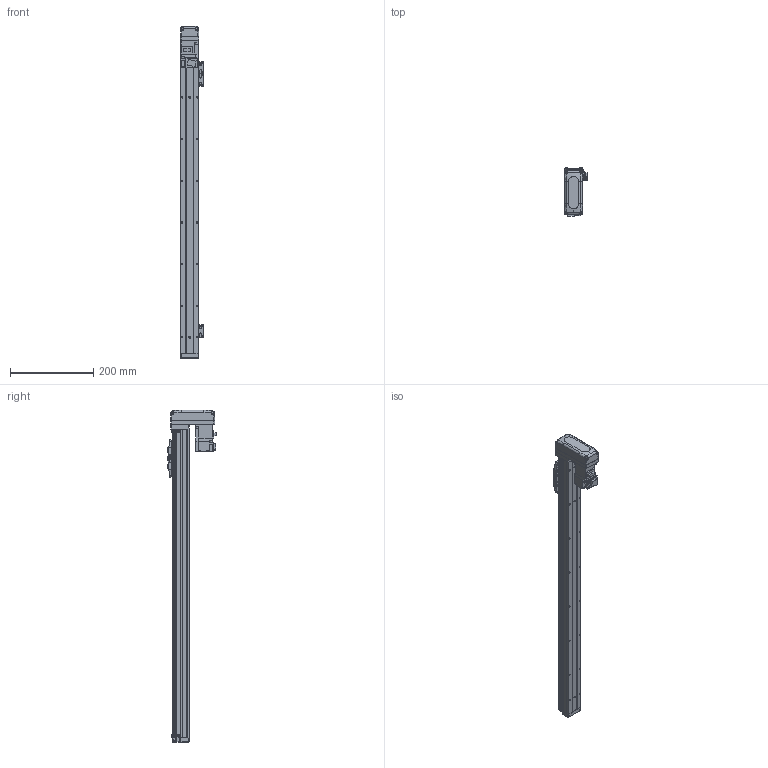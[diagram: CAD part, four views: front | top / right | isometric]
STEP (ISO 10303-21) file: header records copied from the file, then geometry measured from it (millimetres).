
FILE_DESCRIPTION (( 'STEP AP203' ), '1' );
FILE_NAME ('GTH4-600-BM-M05-C4.step', '2023-08-28T00:43:08', ( '微软用户' ), ( '微软中国' ), 'SwSTEP 2.0', 'SolidWorks 2020', '' );
FILE_SCHEMA (( 'CONFIG_CONTROL_DESIGN' ));
Length unit declared in the file: millimetre
Products named in the file (19): BTH40-001-50_BTH40-001-600; BTH50-024; HG-KR13; BTH40-003; GBT 70.1-M3℅6; GBT 70.3-M3℅6; BTH40-006; GBT96.1-2002 3×0.8; BTH40-027-1; BTH-M3X5X6; BTH40-022; BTH50-026; GBT70.1-2000 M3×16; GBT 70.1-M2.5×6; GTH4-600-BM-M05-C4; BTH50-028; BTH40-004; BTH50-023; BTH40-013
Assembly tree (47 placements, depth 2):
  GTH4-600-BM-M05-C4
    BTH40-001-50_BTH40-001-600
    BTH40-003
    BTH40-006
    BTH-M3X5X6  x8
    GBT70.1-2000 M3×16  x4
    BTH50-028  x2
    BTH50-023  x3
    BTH50-024  x3
    GBT 70.1-M3℅6  x6
    GBT96.1-2002 3×0.8  x6
    BTH40-022
    GBT 70.1-M2.5×6  x2
    BTH40-004
    BTH40-013
    HG-KR13
    GBT 70.3-M3℅6  x4
    BTH40-027-1
    BTH50-026
Bounding box: 55.2 x 115.8 x 796 mm (x, y, z)
Volume: 1425508.6 mm3; surface area: 246730.4 mm2
Topology: 49 solids, 49 shells, 1987 faces, 4671 edges, 2874 vertices
Faces by surface type: plane 1052, cylinder 499, cone 270, torus 128, bspline 34, sphere 4
Entity records: 39839 total; most frequent: CARTESIAN_POINT 7618, DIRECTION 6252, ORIENTED_EDGE 5988, EDGE_CURVE 2994, AXIS2_PLACEMENT_3D 2143, LINE 1966, VECTOR 1966, VERTEX_POINT 1861
